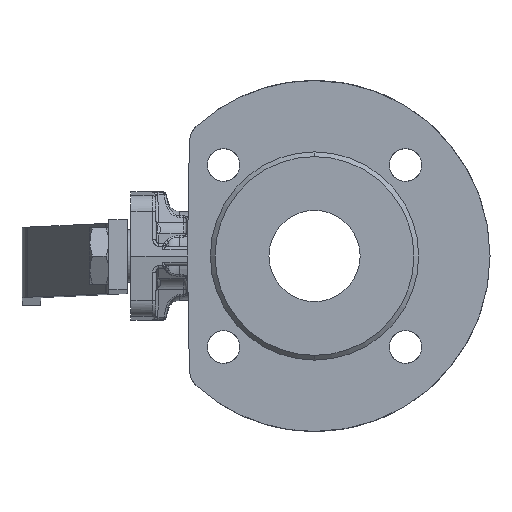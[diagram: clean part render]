
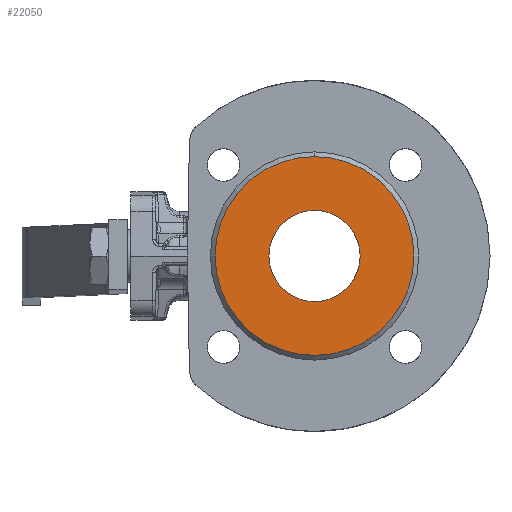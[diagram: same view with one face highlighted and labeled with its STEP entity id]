
A CAD part, left-side view. The second image highlights one B-rep face of the part: STEP entity #22050.
In plain terms, the highlighted planar face has unit normal (-1, 0, 0).
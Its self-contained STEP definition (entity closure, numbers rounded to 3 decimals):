
#2232 = CARTESIAN_POINT ( 'NONE',  ( -32.5, 0., -42.5 ) ) ;
#2245 = CARTESIAN_POINT ( 'NONE',  ( -32.5, 0., 19.5 ) ) ;
#2356 = CARTESIAN_POINT ( 'NONE',  ( -32.5, 0., 42.5 ) ) ;
#2415 = DIRECTION ( 'NONE',  ( 0., 0., 1. ) ) ;
#2416 = DIRECTION ( 'NONE',  ( -1., 0., 0. ) ) ;
#2417 = CARTESIAN_POINT ( 'NONE',  ( -32.5, 0., 0. ) ) ;
#2418 = AXIS2_PLACEMENT_3D ( 'NONE', #2417, #2416, #2415 ) ;
#2419 = CIRCLE ( 'NONE', #2418, 42.5 ) ;
#2437 = CARTESIAN_POINT ( 'NONE',  ( -32.5, 0., 0. ) ) ;
#2456 = CARTESIAN_POINT ( 'NONE',  ( -32.5, 0., -19.5 ) ) ;
#2481 = DIRECTION ( 'NONE',  ( 0., 0., 1. ) ) ;
#2482 = DIRECTION ( 'NONE',  ( -1., 0., 0. ) ) ;
#2483 = AXIS2_PLACEMENT_3D ( 'NONE', #2437, #2482, #2481 ) ;
#2484 = CIRCLE ( 'NONE', #2483, 19.5 ) ;
#10532 = DIRECTION ( 'NONE',  ( 0., 0., -1. ) ) ;
#10533 = DIRECTION ( 'NONE',  ( 1., 0., 0. ) ) ;
#10534 = CARTESIAN_POINT ( 'NONE',  ( -32.5, 19.5, 0. ) ) ;
#10535 = AXIS2_PLACEMENT_3D ( 'NONE', #10534, #10533, #10532 ) ;
#10536 = PLANE ( 'NONE',  #10535 ) ;
#10537 = FACE_OUTER_BOUND ( 'NONE', #22070, .T. ) ;
#10538 = FACE_BOUND ( 'NONE', #22068, .T. ) ;
#10559 = DIRECTION ( 'NONE',  ( 0., 0., 1. ) ) ;
#10560 = DIRECTION ( 'NONE',  ( -1., 0., 0. ) ) ;
#10561 = CARTESIAN_POINT ( 'NONE',  ( -32.5, 0., 0. ) ) ;
#10562 = AXIS2_PLACEMENT_3D ( 'NONE', #10561, #10560, #10559 ) ;
#10563 = CIRCLE ( 'NONE', #10562, 19.5 ) ;
#10570 = DIRECTION ( 'NONE',  ( 0., 0., 1. ) ) ;
#10571 = DIRECTION ( 'NONE',  ( -1., 0., 0. ) ) ;
#10572 = CARTESIAN_POINT ( 'NONE',  ( -32.5, 0., 0. ) ) ;
#10573 = AXIS2_PLACEMENT_3D ( 'NONE', #10572, #10571, #10570 ) ;
#10574 = CIRCLE ( 'NONE', #10573, 42.5 ) ;
#15258 = VERTEX_POINT ( 'NONE', #2245 ) ;
#15283 = VERTEX_POINT ( 'NONE', #2232 ) ;
#15385 = VERTEX_POINT ( 'NONE', #2356 ) ;
#15448 = EDGE_CURVE ( 'NONE', #15385, #15283, #2419, .T. ) ;
#15453 = VERTEX_POINT ( 'NONE', #2456 ) ;
#15474 = EDGE_CURVE ( 'NONE', #15453, #15258, #2484, .T. ) ;
#21954 = ORIENTED_EDGE ( 'NONE', *, *, #22064, .T. ) ;
#21955 = ORIENTED_EDGE ( 'NONE', *, *, #15474, .F. ) ;
#22050 = ADVANCED_FACE ( 'NONE', ( #10538, #10537 ), #10536, .F. ) ;
#22051 = ORIENTED_EDGE ( 'NONE', *, *, #22071, .F. ) ;
#22064 = EDGE_CURVE ( 'NONE', #15283, #15385, #10574, .T. ) ;
#22067 = ORIENTED_EDGE ( 'NONE', *, *, #15448, .T. ) ;
#22068 = EDGE_LOOP ( 'NONE', ( #22051, #21955 ) ) ;
#22070 = EDGE_LOOP ( 'NONE', ( #21954, #22067 ) ) ;
#22071 = EDGE_CURVE ( 'NONE', #15258, #15453, #10563, .T. ) ;
